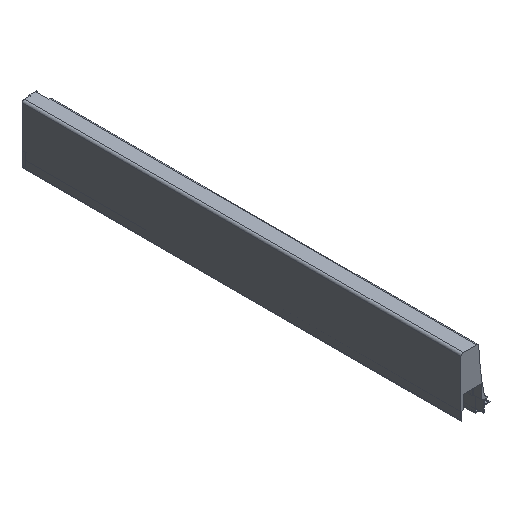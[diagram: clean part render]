
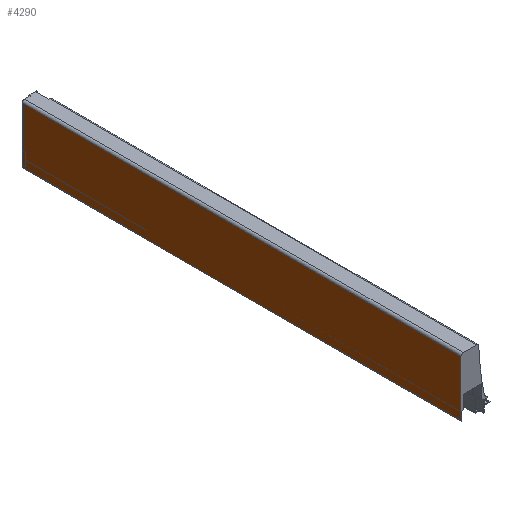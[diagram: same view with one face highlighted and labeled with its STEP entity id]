
A CAD part, isometric view. The second image highlights one B-rep face of the part: STEP entity #4290.
In plain terms, the highlighted planar face has unit normal (-1, 0, 0).
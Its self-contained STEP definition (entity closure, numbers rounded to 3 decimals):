
#41 = CARTESIAN_POINT ( 'NONE',  ( -4.1, 590., -28.503 ) ) ;
#42 = DIRECTION ( 'NONE',  ( 0., 0., 1. ) ) ;
#122 = CARTESIAN_POINT ( 'NONE',  ( -4.1, 590., -28.503 ) ) ;
#128 = CARTESIAN_POINT ( 'NONE',  ( -4.1, 0., -28.503 ) ) ;
#132 = CARTESIAN_POINT ( 'NONE',  ( -4.1, 590., 46.498 ) ) ;
#164 = CARTESIAN_POINT ( 'NONE',  ( -4.1, 0., 46.498 ) ) ;
#338 = CARTESIAN_POINT ( 'NONE',  ( -4.1, 590., -28.503 ) ) ;
#339 = DIRECTION ( 'NONE',  ( 0., -1., 0. ) ) ;
#702 = CARTESIAN_POINT ( 'NONE',  ( -4.1, 0., -7.702 ) ) ;
#703 = DIRECTION ( 'NONE',  ( 0., 0., 1. ) ) ;
#1163 = PLANE ( 'NONE',  #4031 ) ;
#1166 = CARTESIAN_POINT ( 'NONE',  ( -4.1, 590., -7.702 ) ) ;
#1172 = DIRECTION ( 'NONE',  ( -1., 0., 0. ) ) ;
#1173 = DIRECTION ( 'NONE',  ( 0., 1., 0. ) ) ;
#1303 = EDGE_CURVE ( 'NONE', #2258, #2330, #4488, .T. ) ;
#1450 = EDGE_CURVE ( 'NONE', #2260, #2258, #1906, .T. ) ;
#1564 = FACE_OUTER_BOUND ( 'NONE', #5040, .T. ) ;
#1906 = LINE ( 'NONE', #41, #1907 ) ;
#1907 = VECTOR ( 'NONE', #42, 1000. ) ;
#2258 = VERTEX_POINT ( 'NONE', #132 ) ;
#2260 = VERTEX_POINT ( 'NONE', #122 ) ;
#2271 = VERTEX_POINT ( 'NONE', #128 ) ;
#2330 = VERTEX_POINT ( 'NONE', #164 ) ;
#2781 = CARTESIAN_POINT ( 'NONE',  ( -4.1, 590., 46.498 ) ) ;
#2788 = DIRECTION ( 'NONE',  ( 0., -1., 0. ) ) ;
#3313 = LINE ( 'NONE', #702, #3314 ) ;
#3314 = VECTOR ( 'NONE', #703, 1000. ) ;
#3671 = EDGE_CURVE ( 'NONE', #2260, #2271, #4596, .T. ) ;
#3978 = EDGE_CURVE ( 'NONE', #2271, #2330, #3313, .T. ) ;
#4031 = AXIS2_PLACEMENT_3D ( 'NONE', #1166, #1172, #1173 ) ;
#4136 = ORIENTED_EDGE ( 'NONE', *, *, #3671, .T. ) ;
#4137 = ORIENTED_EDGE ( 'NONE', *, *, #1450, .F. ) ;
#4138 = ORIENTED_EDGE ( 'NONE', *, *, #1303, .F. ) ;
#4139 = ORIENTED_EDGE ( 'NONE', *, *, #3978, .T. ) ;
#4290 = ADVANCED_FACE ( 'NONE', ( #1564 ), #1163, .T. ) ;
#4484 = VECTOR ( 'NONE', #2788, 1000. ) ;
#4488 = LINE ( 'NONE', #2781, #4484 ) ;
#4596 = LINE ( 'NONE', #338, #4597 ) ;
#4597 = VECTOR ( 'NONE', #339, 1000. ) ;
#5040 = EDGE_LOOP ( 'NONE', ( #4139, #4138, #4137, #4136 ) ) ;
